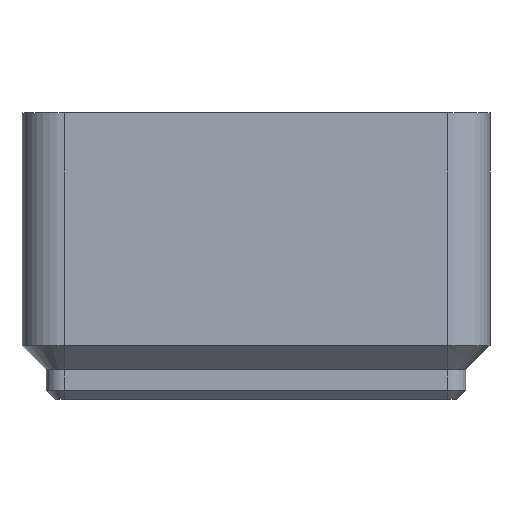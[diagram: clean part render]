
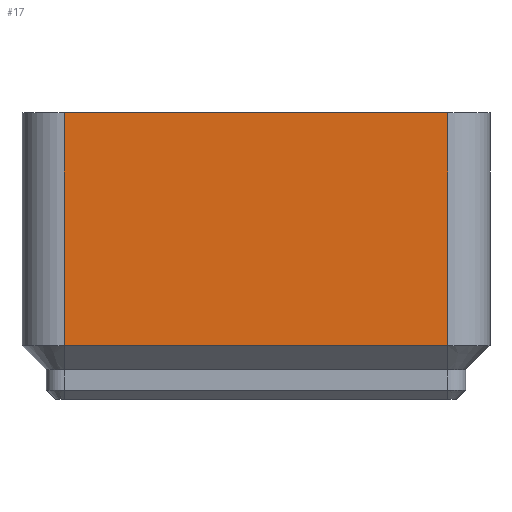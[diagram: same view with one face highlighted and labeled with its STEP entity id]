
A CAD part, left-side view. The second image highlights one B-rep face of the part: STEP entity #17.
In plain terms, the highlighted planar face has unit normal (-1, 0, 0).
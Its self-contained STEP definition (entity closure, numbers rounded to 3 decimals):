
#17 = ADVANCED_FACE('',(#18),#32,.T.);
#18 = FACE_BOUND('',#19,.T.);
#19 = EDGE_LOOP('',(#20,#55,#83,#111));
#20 = ORIENTED_EDGE('',*,*,#21,.T.);
#21 = EDGE_CURVE('',#22,#24,#26,.T.);
#22 = VERTEX_POINT('',#23);
#23 = CARTESIAN_POINT('',(-20.75,-17.,4.75));
#24 = VERTEX_POINT('',#25);
#25 = CARTESIAN_POINT('',(-20.75,-17.,25.4));
#26 = SURFACE_CURVE('',#27,(#31,#43),.PCURVE_S1.);
#27 = LINE('',#28,#29);
#28 = CARTESIAN_POINT('',(-20.75,-17.,4.75));
#29 = VECTOR('',#30,1.);
#30 = DIRECTION('',(0.,0.,1.));
#31 = PCURVE('',#32,#37);
#32 = PLANE('',#33);
#33 = AXIS2_PLACEMENT_3D('',#34,#35,#36);
#34 = CARTESIAN_POINT('',(-20.75,-17.,4.75));
#35 = DIRECTION('',(-1.,0.,0.));
#36 = DIRECTION('',(0.,1.,0.));
#37 = DEFINITIONAL_REPRESENTATION('',(#38),#42);
#38 = LINE('',#39,#40);
#39 = CARTESIAN_POINT('',(0.,0.));
#40 = VECTOR('',#41,1.);
#41 = DIRECTION('',(0.,-1.));
#42 = ( GEOMETRIC_REPRESENTATION_CONTEXT(2) 
PARAMETRIC_REPRESENTATION_CONTEXT() REPRESENTATION_CONTEXT('2D SPACE',''
  ) );
#43 = PCURVE('',#44,#49);
#44 = CYLINDRICAL_SURFACE('',#45,3.75);
#45 = AXIS2_PLACEMENT_3D('',#46,#47,#48);
#46 = CARTESIAN_POINT('',(-17.,-17.,4.75));
#47 = DIRECTION('',(0.,0.,-1.));
#48 = DIRECTION('',(-1.,0.,0.));
#49 = DEFINITIONAL_REPRESENTATION('',(#50),#54);
#50 = LINE('',#51,#52);
#51 = CARTESIAN_POINT('',(6.283,0.));
#52 = VECTOR('',#53,1.);
#53 = DIRECTION('',(0.,-1.));
#54 = ( GEOMETRIC_REPRESENTATION_CONTEXT(2) 
PARAMETRIC_REPRESENTATION_CONTEXT() REPRESENTATION_CONTEXT('2D SPACE',''
  ) );
#55 = ORIENTED_EDGE('',*,*,#56,.T.);
#56 = EDGE_CURVE('',#24,#57,#59,.T.);
#57 = VERTEX_POINT('',#58);
#58 = CARTESIAN_POINT('',(-20.75,17.,25.4));
#59 = SURFACE_CURVE('',#60,(#64,#71),.PCURVE_S1.);
#60 = LINE('',#61,#62);
#61 = CARTESIAN_POINT('',(-20.75,0.,25.4));
#62 = VECTOR('',#63,1.);
#63 = DIRECTION('',(0.,1.,0.));
#64 = PCURVE('',#32,#65);
#65 = DEFINITIONAL_REPRESENTATION('',(#66),#70);
#66 = LINE('',#67,#68);
#67 = CARTESIAN_POINT('',(17.,-20.65));
#68 = VECTOR('',#69,1.);
#69 = DIRECTION('',(1.,0.));
#70 = ( GEOMETRIC_REPRESENTATION_CONTEXT(2) 
PARAMETRIC_REPRESENTATION_CONTEXT() REPRESENTATION_CONTEXT('2D SPACE',''
  ) );
#71 = PCURVE('',#72,#77);
#72 = PLANE('',#73);
#73 = AXIS2_PLACEMENT_3D('',#74,#75,#76);
#74 = CARTESIAN_POINT('',(-20.75,0.,25.4));
#75 = DIRECTION('',(-0.726,0.,-0.688));
#76 = DIRECTION('',(0.,-1.,-0.));
#77 = DEFINITIONAL_REPRESENTATION('',(#78),#82);
#78 = LINE('',#79,#80);
#79 = CARTESIAN_POINT('',(0.,0.));
#80 = VECTOR('',#81,1.);
#81 = DIRECTION('',(-1.,0.));
#82 = ( GEOMETRIC_REPRESENTATION_CONTEXT(2) 
PARAMETRIC_REPRESENTATION_CONTEXT() REPRESENTATION_CONTEXT('2D SPACE',''
  ) );
#83 = ORIENTED_EDGE('',*,*,#84,.F.);
#84 = EDGE_CURVE('',#85,#57,#87,.T.);
#85 = VERTEX_POINT('',#86);
#86 = CARTESIAN_POINT('',(-20.75,17.,4.75));
#87 = SURFACE_CURVE('',#88,(#92,#99),.PCURVE_S1.);
#88 = LINE('',#89,#90);
#89 = CARTESIAN_POINT('',(-20.75,17.,4.75));
#90 = VECTOR('',#91,1.);
#91 = DIRECTION('',(0.,0.,1.));
#92 = PCURVE('',#32,#93);
#93 = DEFINITIONAL_REPRESENTATION('',(#94),#98);
#94 = LINE('',#95,#96);
#95 = CARTESIAN_POINT('',(34.,0.));
#96 = VECTOR('',#97,1.);
#97 = DIRECTION('',(0.,-1.));
#98 = ( GEOMETRIC_REPRESENTATION_CONTEXT(2) 
PARAMETRIC_REPRESENTATION_CONTEXT() REPRESENTATION_CONTEXT('2D SPACE',''
  ) );
#99 = PCURVE('',#100,#105);
#100 = CYLINDRICAL_SURFACE('',#101,3.75);
#101 = AXIS2_PLACEMENT_3D('',#102,#103,#104);
#102 = CARTESIAN_POINT('',(-17.,17.,4.75));
#103 = DIRECTION('',(0.,0.,-1.));
#104 = DIRECTION('',(-1.,0.,0.));
#105 = DEFINITIONAL_REPRESENTATION('',(#106),#110);
#106 = LINE('',#107,#108);
#107 = CARTESIAN_POINT('',(0.,0.));
#108 = VECTOR('',#109,1.);
#109 = DIRECTION('',(0.,-1.));
#110 = ( GEOMETRIC_REPRESENTATION_CONTEXT(2) 
PARAMETRIC_REPRESENTATION_CONTEXT() REPRESENTATION_CONTEXT('2D SPACE',''
  ) );
#111 = ORIENTED_EDGE('',*,*,#112,.F.);
#112 = EDGE_CURVE('',#22,#85,#113,.T.);
#113 = SURFACE_CURVE('',#114,(#118,#125),.PCURVE_S1.);
#114 = LINE('',#115,#116);
#115 = CARTESIAN_POINT('',(-20.75,0.,4.75));
#116 = VECTOR('',#117,1.);
#117 = DIRECTION('',(0.,1.,0.));
#118 = PCURVE('',#32,#119);
#119 = DEFINITIONAL_REPRESENTATION('',(#120),#124);
#120 = LINE('',#121,#122);
#121 = CARTESIAN_POINT('',(17.,0.));
#122 = VECTOR('',#123,1.);
#123 = DIRECTION('',(1.,0.));
#124 = ( GEOMETRIC_REPRESENTATION_CONTEXT(2) 
PARAMETRIC_REPRESENTATION_CONTEXT() REPRESENTATION_CONTEXT('2D SPACE',''
  ) );
#125 = PCURVE('',#126,#131);
#126 = PLANE('',#127);
#127 = AXIS2_PLACEMENT_3D('',#128,#129,#130);
#128 = CARTESIAN_POINT('',(-20.75,0.,4.75));
#129 = DIRECTION('',(-0.707,0.,-0.707));
#130 = DIRECTION('',(0.,-1.,-0.));
#131 = DEFINITIONAL_REPRESENTATION('',(#132),#136);
#132 = LINE('',#133,#134);
#133 = CARTESIAN_POINT('',(0.,0.));
#134 = VECTOR('',#135,1.);
#135 = DIRECTION('',(-1.,0.));
#136 = ( GEOMETRIC_REPRESENTATION_CONTEXT(2) 
PARAMETRIC_REPRESENTATION_CONTEXT() REPRESENTATION_CONTEXT('2D SPACE',''
  ) );
